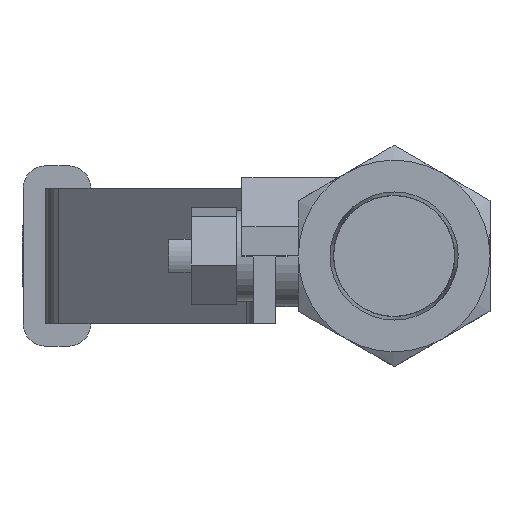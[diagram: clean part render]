
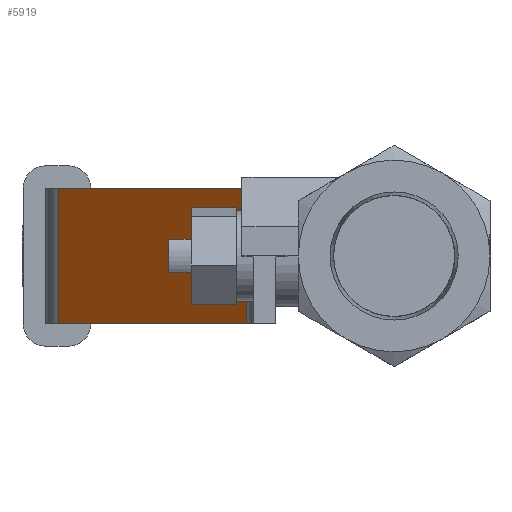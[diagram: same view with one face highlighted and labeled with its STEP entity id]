
A CAD part, left-side view. The second image highlights one B-rep face of the part: STEP entity #5919.
In plain terms, the highlighted planar face has unit normal (-0.707, 0.707, 0).
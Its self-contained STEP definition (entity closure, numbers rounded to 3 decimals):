
#145=PLANE('',#6285);
#399=FACE_OUTER_BOUND('',#727,.T.);
#727=EDGE_LOOP('',(#3927,#3928,#3929,#3930));
#1072=LINE('',#8305,#1713);
#1090=LINE('',#8354,#1731);
#1094=LINE('',#8365,#1735);
#1095=LINE('',#8367,#1736);
#1713=VECTOR('',#6754,10.);
#1731=VECTOR('',#6796,10.);
#1735=VECTOR('',#6806,10.);
#1736=VECTOR('',#6809,10.);
#2491=VERTEX_POINT('',#8298);
#2494=VERTEX_POINT('',#8303);
#2513=VERTEX_POINT('',#8353);
#2516=VERTEX_POINT('',#8361);
#3041=EDGE_CURVE('',#2494,#2491,#1072,.T.);
#3065=EDGE_CURVE('',#2513,#2491,#1090,.T.);
#3071=EDGE_CURVE('',#2513,#2516,#1094,.T.);
#3072=EDGE_CURVE('',#2494,#2516,#1095,.T.);
#3927=ORIENTED_EDGE('',*,*,#3041,.F.);
#3928=ORIENTED_EDGE('',*,*,#3072,.T.);
#3929=ORIENTED_EDGE('',*,*,#3071,.F.);
#3930=ORIENTED_EDGE('',*,*,#3065,.T.);
#5919=ADVANCED_FACE('',(#399),#145,.T.);
#6285=AXIS2_PLACEMENT_3D('',#8366,#6807,#6808);
#6754=DIRECTION('',(0.,0.,-1.));
#6796=DIRECTION('',(-0.707,-0.707,0.));
#6806=DIRECTION('',(0.,0.,1.));
#6807=DIRECTION('center_axis',(-0.707,0.707,0.));
#6808=DIRECTION('ref_axis',(0.,0.,
1.));
#6809=DIRECTION('',(0.707,0.707,0.));
#8298=CARTESIAN_POINT('',(-14.318,2.804,-6.));
#8303=CARTESIAN_POINT('',(-14.318,2.804,6.));
#8305=CARTESIAN_POINT('',(-14.318,2.804,0.));
#8353=CARTESIAN_POINT('',(2.325,19.446,-6.));
#8354=CARTESIAN_POINT('',(3.496,20.618,-6.));
#8361=CARTESIAN_POINT('',(2.325,19.446,6.));
#8365=CARTESIAN_POINT('',(2.325,19.446,0.));
#8366=CARTESIAN_POINT('Origin',(-14.904,2.218,0.));
#8367=CARTESIAN_POINT('',(3.496,20.618,6.));
